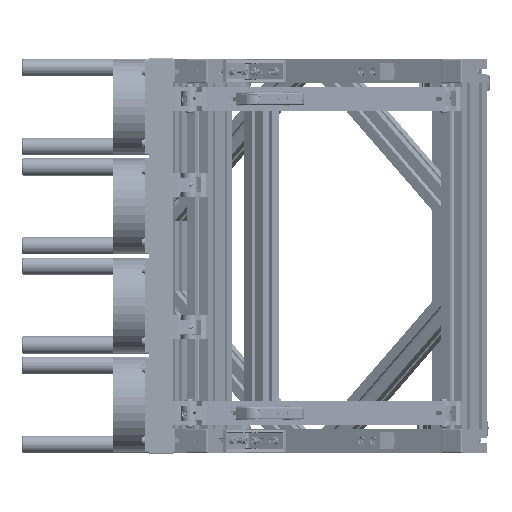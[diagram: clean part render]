
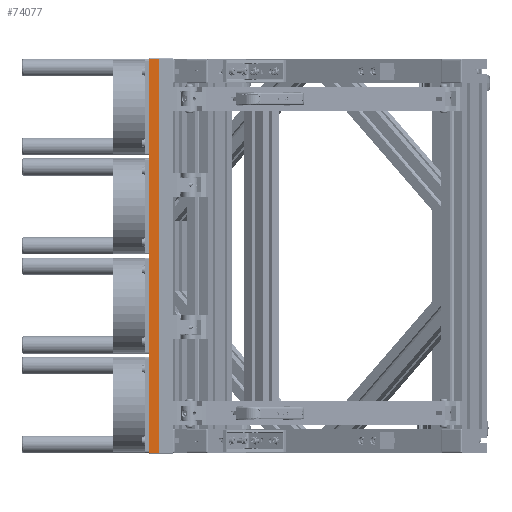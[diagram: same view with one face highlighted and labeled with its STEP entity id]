
A CAD part, left-side view. The second image highlights one B-rep face of the part: STEP entity #74077.
In plain terms, the highlighted planar face has unit normal (-1, 0, 0).
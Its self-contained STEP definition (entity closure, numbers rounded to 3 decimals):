
#4509=PLANE('',#79639);
#6807=FACE_OUTER_BOUND('',#10957,.T.);
#10957=EDGE_LOOP('',(#50798,#50799,#50800,#50801));
#15621=LINE('',#108385,#22705);
#15622=LINE('',#108388,#22706);
#15623=LINE('',#108390,#22707);
#15624=LINE('',#108391,#22708);
#22705=VECTOR('',#86989,0.394);
#22706=VECTOR('',#86992,0.394);
#22707=VECTOR('',#86993,0.394);
#22708=VECTOR('',#86994,0.394);
#32410=VERTEX_POINT('',#108381);
#32411=VERTEX_POINT('',#108383);
#32412=VERTEX_POINT('',#108387);
#32413=VERTEX_POINT('',#108389);
#39648=EDGE_CURVE('',#32410,#32411,#15621,.T.);
#39649=EDGE_CURVE('',#32412,#32410,#15622,.T.);
#39650=EDGE_CURVE('',#32413,#32411,#15623,.T.);
#39651=EDGE_CURVE('',#32412,#32413,#15624,.T.);
#50798=ORIENTED_EDGE('',*,*,#39649,.T.);
#50799=ORIENTED_EDGE('',*,*,#39648,.T.);
#50800=ORIENTED_EDGE('',*,*,#39650,.F.);
#50801=ORIENTED_EDGE('',*,*,#39651,.F.);
#74077=ADVANCED_FACE('',(#6807),#4509,.T.);
#79639=AXIS2_PLACEMENT_3D('',#108386,#86990,#86991);
#86989=DIRECTION('',(0.,0.,1.));
#86990=DIRECTION('center_axis',(-1.,0.,0.));
#86991=DIRECTION('ref_axis',(0.,-1.,0.));
#86992=DIRECTION('',(0.,-1.,0.));
#86993=DIRECTION('',(0.,-1.,0.));
#86994=DIRECTION('',(0.,0.,1.));
#108381=CARTESIAN_POINT('',(-0.886,0.161,0.));
#108383=CARTESIAN_POINT('',(-0.886,0.161,28.705));
#108385=CARTESIAN_POINT('',(-0.886,0.161,0.));
#108386=CARTESIAN_POINT('Origin',(-0.886,0.886,0.));
#108387=CARTESIAN_POINT('',(-0.886,0.886,0.));
#108388=CARTESIAN_POINT('',(-0.886,0.886,0.));
#108389=CARTESIAN_POINT('',(-0.886,0.886,28.705));
#108390=CARTESIAN_POINT('',(-0.886,0.886,28.705));
#108391=CARTESIAN_POINT('',(-0.886,0.886,0.));
